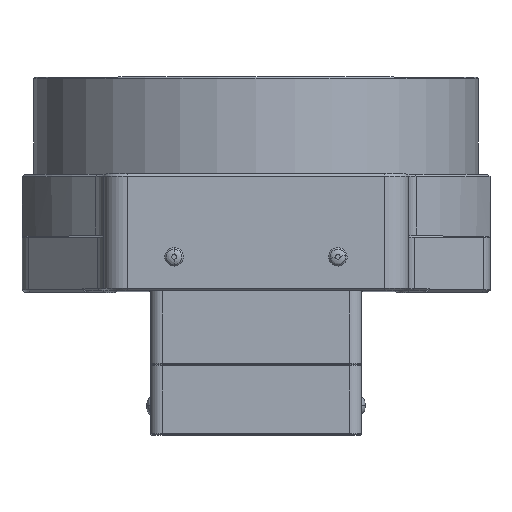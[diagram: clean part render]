
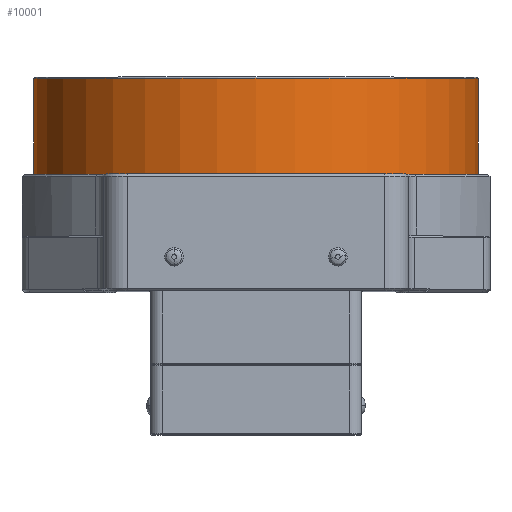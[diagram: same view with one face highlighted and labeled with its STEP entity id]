
A CAD part, top view. The second image highlights one B-rep face of the part: STEP entity #10001.
In plain terms, the highlighted cylindrical face has radius 95 mm (diameter 190 mm), a partial arc.
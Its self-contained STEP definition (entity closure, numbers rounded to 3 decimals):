
#897 = EDGE_CURVE ( 'NONE', #11123, #2814, #4090, .T. ) ;
#1632 = ORIENTED_EDGE ( 'NONE', *, *, #11591, .F. ) ;
#2666 = EDGE_LOOP ( 'NONE', ( #1632, #5678, #6428, #2702 ) ) ;
#2702 = ORIENTED_EDGE ( 'NONE', *, *, #897, .F. ) ;
#2814 = VERTEX_POINT ( 'NONE', #4006 ) ;
#3243 = CYLINDRICAL_SURFACE ( 'NONE', #9097, 95. ) ;
#3507 = VERTEX_POINT ( 'NONE', #13212 ) ;
#4006 = CARTESIAN_POINT ( 'NONE',  ( -95., 49.7, 0. ) ) ;
#4090 = CIRCLE ( 'NONE', #5038, 95. ) ;
#4405 = CARTESIAN_POINT ( 'NONE',  ( 0., 92., 0. ) ) ;
#5038 = AXIS2_PLACEMENT_3D ( 'NONE', #10311, #8472, #13524 ) ;
#5633 = DIRECTION ( 'NONE',  ( 0., -1., 0. ) ) ;
#5678 = ORIENTED_EDGE ( 'NONE', *, *, #7313, .T. ) ;
#6428 = ORIENTED_EDGE ( 'NONE', *, *, #11723, .T. ) ;
#6680 = CARTESIAN_POINT ( 'NONE',  ( 95., 92., 0. ) ) ;
#7244 = LINE ( 'NONE', #13730, #13140 ) ;
#7313 = EDGE_CURVE ( 'NONE', #10154, #3507, #7668, .T. ) ;
#7668 = CIRCLE ( 'NONE', #11889, 95. ) ;
#7953 = CARTESIAN_POINT ( 'NONE',  ( 95., 91.5, 0. ) ) ;
#8472 = DIRECTION ( 'NONE',  ( 0., -1., 0. ) ) ;
#8967 = LINE ( 'NONE', #6680, #11906 ) ;
#9097 = AXIS2_PLACEMENT_3D ( 'NONE', #4405, #11001, #12122 ) ;
#9117 = FACE_OUTER_BOUND ( 'NONE', #2666, .T. ) ;
#9318 = DIRECTION ( 'NONE',  ( 0., -1., 0. ) ) ;
#10001 = ADVANCED_FACE ( 'NONE', ( #9117 ), #3243, .T. ) ;
#10154 = VERTEX_POINT ( 'NONE', #7953 ) ;
#10311 = CARTESIAN_POINT ( 'NONE',  ( 0., 49.7, 0. ) ) ;
#11001 = DIRECTION ( 'NONE',  ( 0., -1., 0. ) ) ;
#11123 = VERTEX_POINT ( 'NONE', #12407 ) ;
#11591 = EDGE_CURVE ( 'NONE', #10154, #11123, #8967, .T. ) ;
#11723 = EDGE_CURVE ( 'NONE', #3507, #2814, #7244, .T. ) ;
#11889 = AXIS2_PLACEMENT_3D ( 'NONE', #12236, #5633, #13370 ) ;
#11906 = VECTOR ( 'NONE', #13296, 1000. ) ;
#12122 = DIRECTION ( 'NONE',  ( -1., 0., 0. ) ) ;
#12236 = CARTESIAN_POINT ( 'NONE',  ( 0., 91.5, 0. ) ) ;
#12407 = CARTESIAN_POINT ( 'NONE',  ( 95., 49.7, 0. ) ) ;
#13140 = VECTOR ( 'NONE', #9318, 1000. ) ;
#13212 = CARTESIAN_POINT ( 'NONE',  ( -95., 91.5, 0. ) ) ;
#13296 = DIRECTION ( 'NONE',  ( 0., -1., 0. ) ) ;
#13370 = DIRECTION ( 'NONE',  ( 1., 0., 0. ) ) ;
#13524 = DIRECTION ( 'NONE',  ( -1., 0., 0. ) ) ;
#13730 = CARTESIAN_POINT ( 'NONE',  ( -95., 92., 0. ) ) ;
